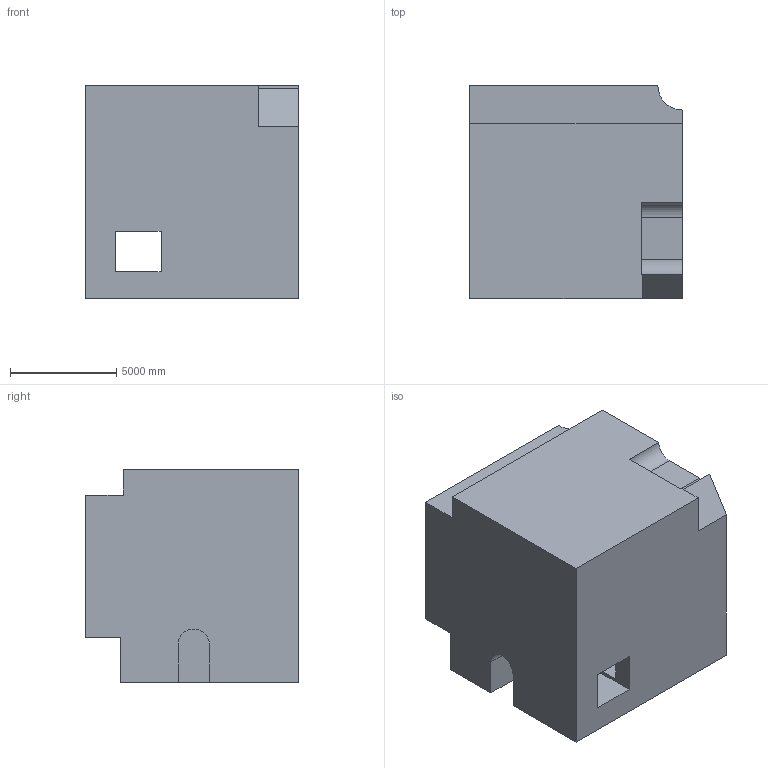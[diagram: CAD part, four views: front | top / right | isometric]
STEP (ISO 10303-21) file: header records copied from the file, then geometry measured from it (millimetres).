
FILE_DESCRIPTION (( 'STEP AP203' ), '1' );
FILE_NAME ('729.STEP', '2022-07-29T12:48:22', ( 'user' ), ( '' ), 'SwSTEP 2.0', 'SolidWorks 2021', '' );
FILE_SCHEMA (( 'CONFIG_CONTROL_DESIGN' ));
Length unit declared in the file: centimetre
Products named in the file (1): 729
Bounding box: 10000 x 10000 x 10000 mm (x, y, z)
Volume: 862237092470.8 mm3; surface area: 692824531.1 mm2
Topology: 1 solids, 1 shells, 37 faces, 117 edges, 78 vertices
Faces by surface type: plane 30, cylinder 7
Entity records: 1375 total; most frequent: ORIENTED_EDGE 234, CARTESIAN_POINT 233, DIRECTION 208, EDGE_CURVE 117, VECTOR 102, LINE 102, VERTEX_POINT 78, AXIS2_PLACEMENT_3D 53
